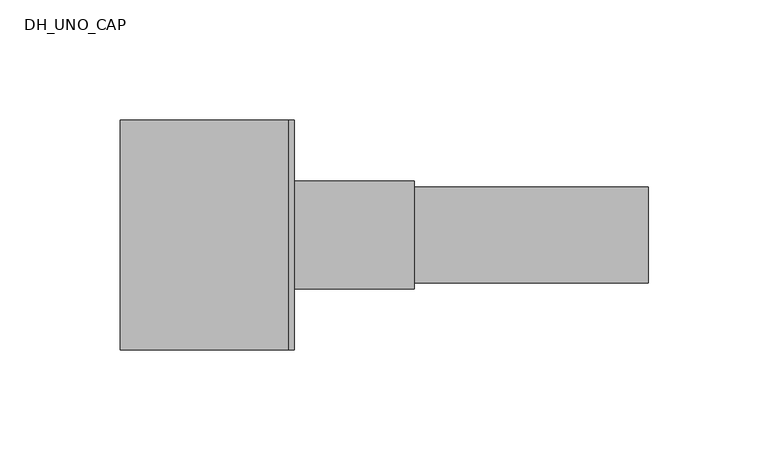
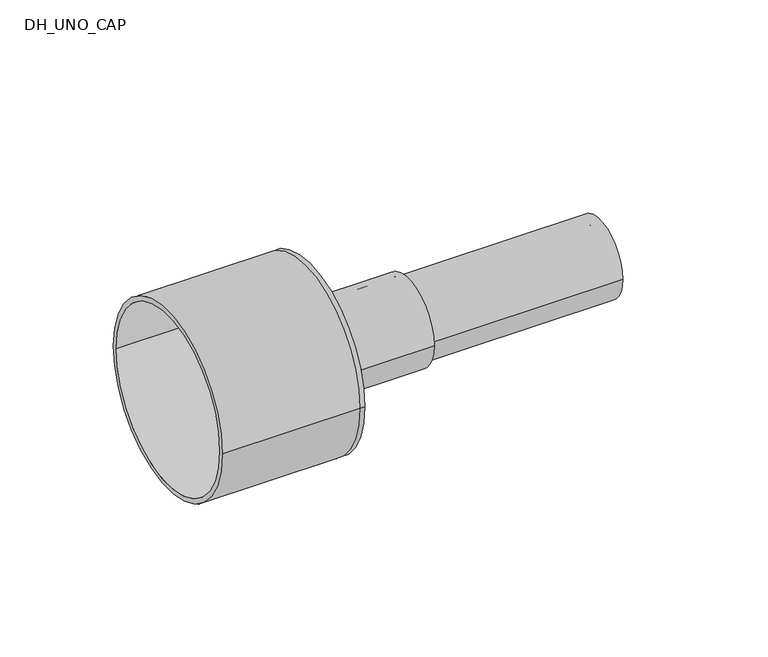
"""IFC4 building model written with IfcOpenShell, lengths in millimetres: pipe fitting geometry, DH_UNO_CAP : RAUTHERMEX UNO 7.4 DW - Rubber Cap."""

from ifc_helpers import new_model, si_unit, point, frame, origin, origin_2d, place, context, project, spatial, polyline, circle_curve, trimmed, segment, composite_curve, outline, extrude, source, transform, mapped, element, save
from ifc_brep_helpers import plane_surface, cylinder_surface, revolved_surface, advanced_brep


def dh_uno_cap_97a2185b(model_context):
    return source(origin(), model_context, "Body", "SolidModel", [
        extrude(outline(composite_curve([segment(trimmed(circle_curve(origin_2d(), 20.0), [point((-20.0, 0.0))], [point((20.0, 0.0))], False, "CARTESIAN"), True, "CONTINUOUS"), segment(trimmed(circle_curve(origin_2d(), 20.0), [point((20.0, 0.0))], [point((-20.0, 0.0))], False, "CARTESIAN"), True, "CONTINUOUS")], self_intersect=False), holes=[composite_curve([segment(trimmed(circle_curve(origin_2d(), 14.5), [point((-14.5, 0.0))], [point((14.5, 0.0))], True, "CARTESIAN"), True, "CONTINUOUS"), segment(trimmed(circle_curve(origin_2d(), 14.5), [point((14.5, 0.0))], [point((-14.5, 0.0))], True, "CARTESIAN"), True, "CONTINUOUS")], self_intersect=False)]), frame((0.0, 0.0, 0.0), z_axis=(1.0, 0.0, 0.0), x_axis=(0.0, 1.0, 0.0)), (0.0, 0.0, 1.0), 150.0),
        advanced_brep(
        [(-70.0, -48.0, 0.0), (-70.0, 48.0, 0.0), (-70.0, -45.5, 0.0), (-70.0, 45.5, 0.0), (0.0, -45.5, 0.0), (0.0, 45.5, 0.0), (0.0, -48.0, 0.0), (0.0, 48.0, 0.0), (0.0, 20.0, 0.0), (0.0, -20.0, 0.0), (2.5, -48.0, 0.0), (2.5, 48.0, 0.0), (2.5, -20.0, 0.0), (2.5, 20.0, 0.0)],
        [
            (0, 1, circle_curve(frame((-70.0, 0.0, 0.0), z_axis=(-1.0, 0.0, 0.0), x_axis=(0.0, 1.0, 0.0)), 48.0)),
            (1, 0, circle_curve(frame((-70.0, 0.0, 0.0), z_axis=(-1.0, 0.0, 0.0), x_axis=(0.0, 1.0, 0.0)), 48.0)),
            (2, 3, circle_curve(frame((-70.0, 0.0, 0.0), z_axis=(1.0, 0.0, 0.0), x_axis=(0.0, 1.0, 0.0)), 45.5)),
            (3, 2, circle_curve(frame((-70.0, 0.0, 0.0), z_axis=(1.0, 0.0, 0.0), x_axis=(0.0, 1.0, 0.0)), 45.5)),
            (2, 4),
            (4, 5, circle_curve(frame((0.0, 0.0, 0.0), z_axis=(1.0, 0.0, 0.0), x_axis=(0.0, 1.0, 0.0)), 45.5)),
            (5, 3),
            (5, 4, circle_curve(frame((0.0, 0.0, 0.0), z_axis=(1.0, 0.0, 0.0), x_axis=(0.0, 1.0, 0.0)), 45.5)),
            (0, 6),
            (6, 7, circle_curve(frame((0.0, 0.0, 0.0), z_axis=(-1.0, 0.0, 0.0), x_axis=(0.0, 1.0, 0.0)), 48.0)),
            (7, 1),
            (7, 6, circle_curve(frame((0.0, 0.0, 0.0), z_axis=(-1.0, 0.0, 0.0), x_axis=(0.0, 1.0, 0.0)), 48.0)),
            (8, 9, circle_curve(frame((0.0, 0.0, 0.0), z_axis=(1.0, 0.0, 0.0), x_axis=(0.0, 1.0, 0.0)), 20.0)),
            (9, 8, circle_curve(frame((0.0, 0.0, 0.0), z_axis=(1.0, 0.0, 0.0), x_axis=(0.0, 1.0, 0.0)), 20.0)),
            (10, 11, circle_curve(frame((2.5, 0.0, 0.0), z_axis=(1.0, 0.0, 0.0), x_axis=(0.0, 1.0, 0.0)), 48.0)),
            (11, 10, circle_curve(frame((2.5, 0.0, 0.0), z_axis=(1.0, 0.0, 0.0), x_axis=(0.0, 1.0, 0.0)), 48.0)),
            (12, 13, circle_curve(frame((2.5, 0.0, 0.0), z_axis=(-1.0, 0.0, 0.0), x_axis=(0.0, 1.0, 0.0)), 20.0)),
            (13, 12, circle_curve(frame((2.5, 0.0, 0.0), z_axis=(-1.0, 0.0, 0.0), x_axis=(0.0, 1.0, 0.0)), 20.0)),
            (11, 7),
            (6, 10),
            (8, 13),
            (12, 9),
        ],
        [
            plane_surface(frame((-70.0, 0.0, 0.0), z_axis=(-1.0, 0.0, 0.0), x_axis=(0.0, 0.0, 1.0))),
            revolved_surface(polyline([(0.0, 45.5, 0.0), (-70.0, 45.5, 0.0)]), (-70.0, 0.0, 0.0), (1.0, 0.0, 0.0)),
            cylinder_surface(frame((-70.0, 0.0, 0.0), z_axis=(-1.0, 0.0, 0.0), x_axis=(0.0, 1.0, 0.0)), 48.0),
            plane_surface(frame((0.0, 0.0, 0.0), z_axis=(-1.0, 0.0, 0.0), x_axis=(0.0, 0.0, 1.0))),
            plane_surface(frame((2.5, 0.0, 0.0), z_axis=(1.0, 0.0, 0.0), x_axis=(0.0, 0.0, 1.0))),
            cylinder_surface(frame((0.0, 0.0, 0.0), z_axis=(-1.0, 0.0, 0.0), x_axis=(0.0, 1.0, 0.0)), 48.0),
            revolved_surface(polyline([(0.0, 20.0, 0.0), (2.5, 20.0, 0.0)]), (0.0, 0.0, 0.0), (-1.0, 0.0, 0.0)),
        ],
        [
            (0, [[1, 2], [3, 4]]),
            (1, [[-3, 5, 6, 7]]),
            (1, [[-4, -7, 8, -5]]),
            (2, [[-1, 9, 10, 11]]),
            (2, [[-2, -11, 12, -9]]),
            (3, [[-6, -8], [13, 14]]),
            (4, [[15, 16], [17, 18]]),
            (5, [[-16, 19, -10, 20]]),
            (5, [[-15, -20, -12, -19]]),
            (6, [[21, -17, 22, -13]]),
            (6, [[-21, -14, -22, -18]]),
        ],
    ),
        extrude(outline(composite_curve([segment(trimmed(circle_curve(origin_2d(), 22.5), [point((-22.5, 0.0))], [point((22.5, 0.0))], False, "CARTESIAN"), True, "CONTINUOUS"), segment(trimmed(circle_curve(origin_2d(), 22.5), [point((22.5, 0.0))], [point((-22.5, 0.0))], False, "CARTESIAN"), True, "CONTINUOUS")], self_intersect=False), holes=[composite_curve([segment(trimmed(circle_curve(origin_2d(), 20.0), [point((-20.0, 0.0))], [point((20.0, 0.0))], True, "CARTESIAN"), True, "CONTINUOUS"), segment(trimmed(circle_curve(origin_2d(), 20.0), [point((20.0, 0.0))], [point((-20.0, 0.0))], True, "CARTESIAN"), True, "CONTINUOUS")], self_intersect=False)]), frame((2.5, 0.0, 0.0), z_axis=(1.0, 0.0, 0.0), x_axis=(0.0, 1.0, 0.0)), (0.0, 0.0, 1.0), 50.0),
    ])


if __name__ == "__main__":
    model = new_model("IFC4")
    model_context = context("Model", 3, world=origin())
    ifc_project = project(units=[si_unit("LENGTHUNIT", "METRE", prefix="MILLI")], contexts=[model_context])
    site = spatial("IfcSite", under=ifc_project)
    building = spatial("IfcBuilding", under=site)
    placement = place(None, origin())
    dh_uno_cap_shape = dh_uno_cap_97a2185b(model_context)
    element("IfcPipeFitting", 1, ObjectType="DH_UNO_CAP : RAUTHERMEX UNO 7.4 DW - Rubber Cap", at=placement, inside=building, context=model_context, shape_type="MappedRepresentation", body=[
        mapped(dh_uno_cap_shape, transform((0.0, 0.0, 0.0), x_axis=(1.0, 0.0, 0.0), y_axis=(0.0, 1.0, 0.0), z_axis=(0.0, 0.0, 1.0))),
    ])
    save(model, "model.ifc")
